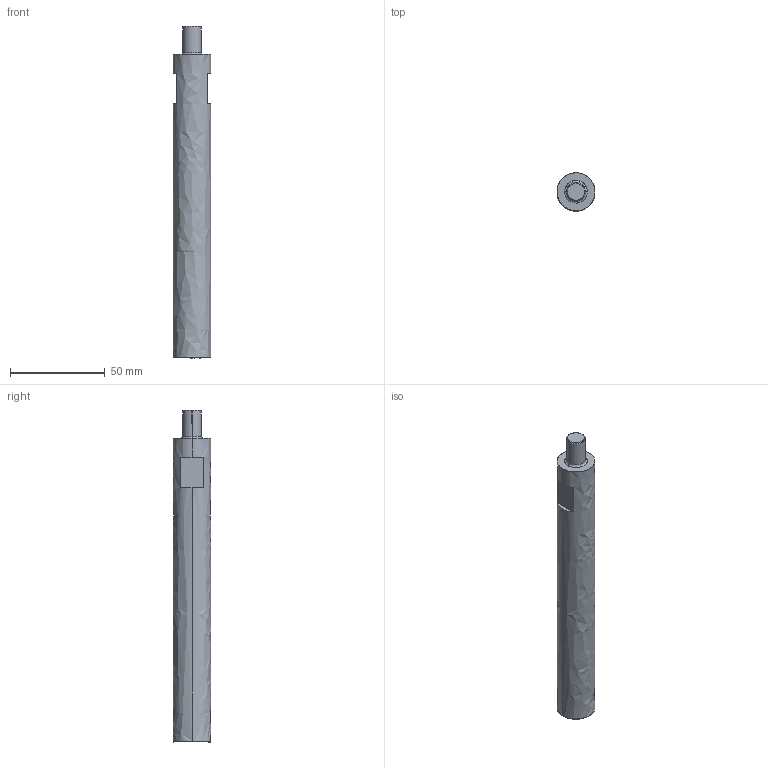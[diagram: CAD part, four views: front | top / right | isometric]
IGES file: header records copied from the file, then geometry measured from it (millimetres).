
Global section: file name: E:\UnigraphicsGraphicData\MISUMI_PRESS-PARTS\IGES\3d_mcup20-160_01358_r00.igs; native system: NX V5.0; preprocessor: UGS NX IGES V5.0; author: MISUMI; date: 20110105.161309; units: millimetre
Bounding box: 20 x 20 x 175 mm (x, y, z)
Surface area: 11151.1 mm2 (no closed solid volume)
Topology: 0 solids, 0 shells, 19 faces, 108 edges, 108 vertices
Faces by surface type: bspline 19
